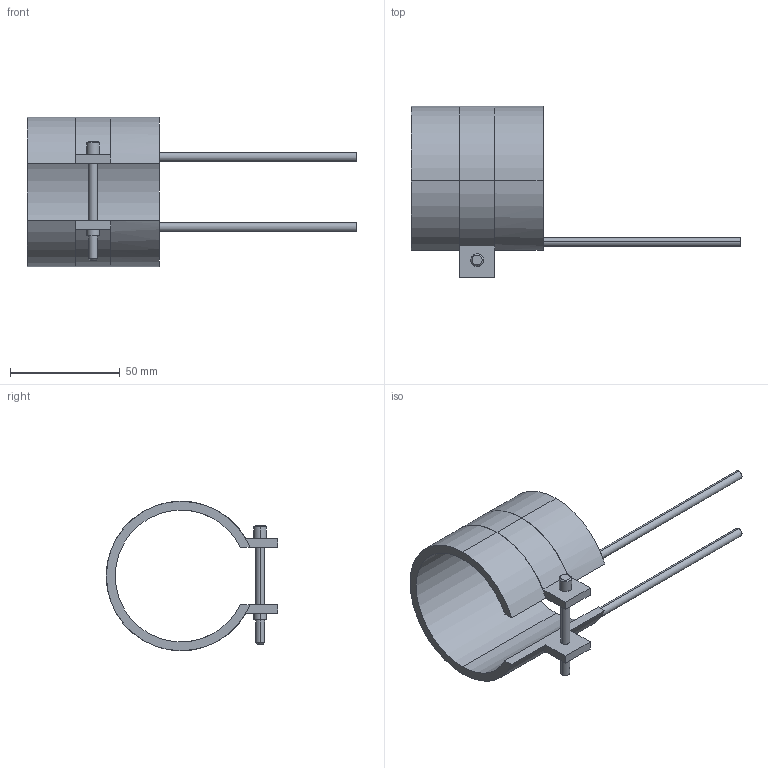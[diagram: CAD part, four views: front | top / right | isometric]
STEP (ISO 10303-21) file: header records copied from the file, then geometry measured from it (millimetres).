
FILE_DESCRIPTION(('CATIA V5 STEP Exchange'),'2;1');
FILE_NAME('C:\Users\Utente\Desktop\IO LAVORO\3D X SITO CF\X SITO\PLASTICA\RF2\14060060.stp','2021-04-03T07:59:51+00:00',('none'),('none'),'CATIA Version 5 Release 20 GA (IN-10)','CATIA V5 STEP AP203','none');
FILE_SCHEMA(('CONFIG_CONTROL_DESIGN'));
Length unit declared in the file: millimetre
Products named in the file (1): 14060060
Bounding box: 150 x 78.1 x 68.2 mm (x, y, z)
Volume: 46796.1 mm3; surface area: 26796.8 mm2
Topology: 1 solids, 1 shells, 45 faces, 116 edges, 76 vertices
Faces by surface type: cylinder 24, plane 17, cone 4
Entity records: 1406 total; most frequent: CARTESIAN_POINT 280, ORIENTED_EDGE 232, DIRECTION 196, EDGE_CURVE 116, AXIS2_PLACEMENT_3D 104, VERTEX_POINT 76, CIRCLE 62, VECTOR 52
